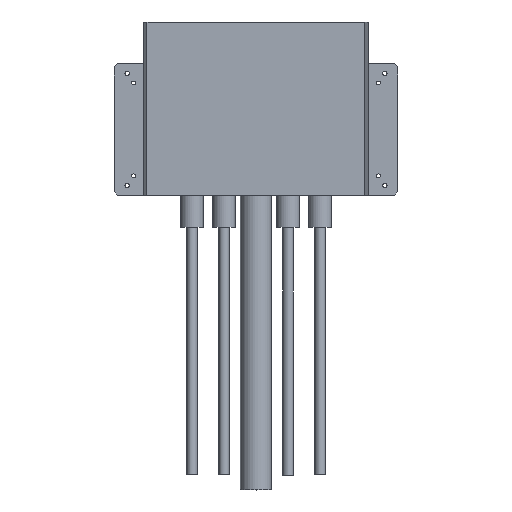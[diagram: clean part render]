
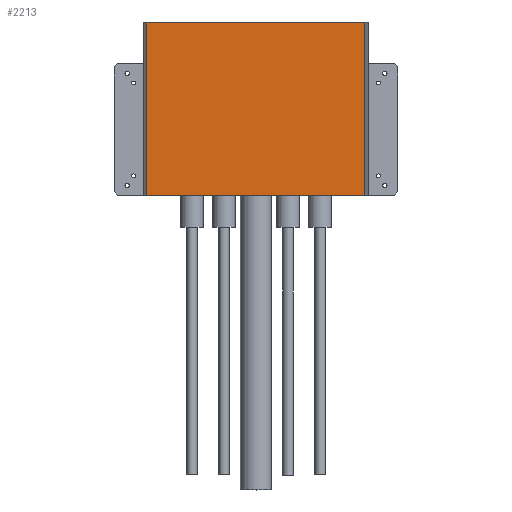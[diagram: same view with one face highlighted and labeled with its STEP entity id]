
A CAD part, top view. The second image highlights one B-rep face of the part: STEP entity #2213.
In plain terms, the highlighted planar face has unit normal (-0.001, 0, 1) as drawn and (-1, 0, 0) by its records, which use the part's own axes.
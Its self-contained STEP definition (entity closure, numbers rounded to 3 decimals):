
#116=LINE('',#3358,#318);
#117=LINE('',#3361,#319);
#120=LINE('',#3377,#322);
#121=LINE('',#3378,#323);
#318=VECTOR('',#2786,10.);
#319=VECTOR('',#2789,10.);
#322=VECTOR('',#2804,10.);
#323=VECTOR('',#2805,10.);
#539=PLANE('',#2524);
#713=FACE_OUTER_BOUND('',#884,.T.);
#884=EDGE_LOOP('',(#1676,#1677,#1678,#1679));
#1120=VERTEX_POINT('',#3352);
#1122=VERTEX_POINT('',#3356);
#1123=VERTEX_POINT('',#3360);
#1130=VERTEX_POINT('',#3376);
#1338=EDGE_CURVE('',#1120,#1122,#116,.T.);
#1339=EDGE_CURVE('',#1123,#1120,#117,.T.);
#1347=EDGE_CURVE('',#1122,#1130,#120,.T.);
#1348=EDGE_CURVE('',#1130,#1123,#121,.T.);
#1676=ORIENTED_EDGE('',*,*,#1338,.T.);
#1677=ORIENTED_EDGE('',*,*,#1347,.T.);
#1678=ORIENTED_EDGE('',*,*,#1348,.T.);
#1679=ORIENTED_EDGE('',*,*,#1339,.T.);
#2213=ADVANCED_FACE('',(#713),#539,.F.);
#2524=AXIS2_PLACEMENT_3D('',#3375,#2802,#2803);
#2786=DIRECTION('',(0.,1.,0.));
#2789=DIRECTION('',(0.,0.,1.));
#2802=DIRECTION('center_axis',(1.,0.,0.));
#2803=DIRECTION('ref_axis',(0.,0.,-1.));
#2804=DIRECTION('',(0.,0.,-1.));
#2805=DIRECTION('',(0.,-1.,0.));
#3352=CARTESIAN_POINT('',(0.,0.,-5.));
#3356=CARTESIAN_POINT('',(0.,270.,-5.));
#3358=CARTESIAN_POINT('',(0.,202.5,-5.));
#3360=CARTESIAN_POINT('',(0.,0.,-345.));
#3361=CARTESIAN_POINT('',(0.,0.,-350.));
#3375=CARTESIAN_POINT('Origin',(0.,135.,-175.));
#3376=CARTESIAN_POINT('',(0.,270.,-345.));
#3377=CARTESIAN_POINT('',(0.,270.,0.));
#3378=CARTESIAN_POINT('',(0.,202.5,-345.));
